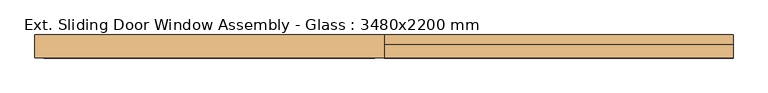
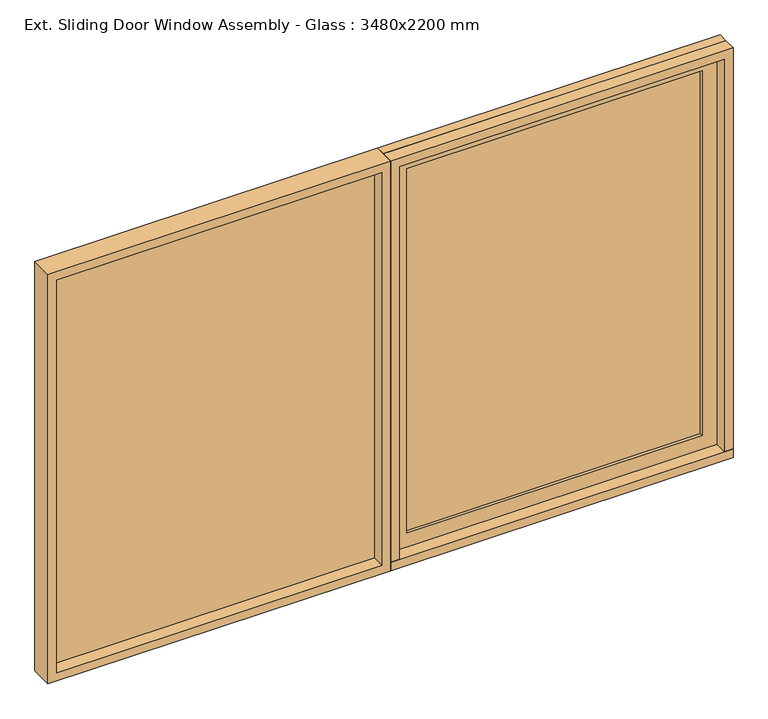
"""IFC4 building model written with IfcOpenShell, lengths in millimetres: door geometry, Ext. Sliding Door Window Assembly - Glass : 3480x2200 mm."""

from ifc_helpers import new_model, si_unit, frame, origin, origin_with_axes, place, context, project, spatial, polyline, outline, extrude, source, transform, mapped, element, save


def ext_sliding_door_window_assembly_glass_3480x2200_mm_6c81b4e4(model_context):
    return source(origin(), model_context, "Body", "SweptSolid", [
        extrude(outline(polyline([(-45.0, -110.0), (-1695.0, -110.0), (-1695.0, -88.0), (-45.0, -88.0), (-45.0, -110.0)])), frame((0.0, 0.0, 45.0), z_axis=(0.0, 0.0, 1.0), x_axis=(1.0, 0.0, 0.0)), (0.0, 0.0, 1.0), 2110.0),
        extrude(outline(polyline([(2200.0, 0.0), (2200.0, -1740.0), (0.0, -1740.0), (0.0, 0.0), (2200.0, 0.0)]), holes=[polyline([(45.0, -45.0), (45.0, -1695.0), (2155.0, -1695.0), (2155.0, -45.0), (45.0, -45.0)])]), frame((0.0, -175.0, 0.0), z_axis=(0.0, 1.0, 0.0), x_axis=(0.0, 0.0, 1.0)), (0.0, 0.0, 1.0), 115.0),
        extrude(outline(polyline([(1740.0, -110.0), (1740.0, -175.0), (0.0, -175.0), (0.0, -110.0), (1740.0, -110.0)])), origin_with_axes(), (0.0, 0.0, 1.0), 45.0),
        extrude(outline(polyline([(1620.0, -93.3333333), (120.0, -93.3333333), (120.0, -76.6666667), (1620.0, -76.6666667), (1620.0, -93.3333333)])), frame((0.0, 0.0, 120.0), z_axis=(0.0, 0.0, 1.0), x_axis=(1.0, 0.0, 0.0)), (0.0, 0.0, 1.0), 1960.0),
        extrude(outline(polyline([(2155.0, 45.0), (2155.0, 1695.0), (45.0, 1695.0), (45.0, 1740.0), (2200.0, 1740.0), (2200.0, 0.0), (45.0, 0.0), (45.0, 45.0), (2155.0, 45.0)])), frame((0.0, -175.0, 0.0), z_axis=(0.0, 1.0, 0.0), x_axis=(0.0, 0.0, 1.0)), (0.0, 0.0, 1.0), 65.0),
        extrude(outline(polyline([(2200.0, 0.0), (0.0, 0.0), (0.0, 1740.0), (2200.0, 1740.0), (2200.0, 0.0)]), holes=[polyline([(2080.0, 120.0), (2080.0, 1620.0), (120.0, 1620.0), (120.0, 120.0), (2080.0, 120.0)])]), frame((0.0, -110.0, 0.0), z_axis=(0.0, 1.0, 0.0), x_axis=(0.0, 0.0, 1.0)), (0.0, 0.0, 1.0), 50.0),
    ])


if __name__ == "__main__":
    model = new_model("IFC4")
    model_context = context("Model", 3, world=origin())
    ifc_project = project(units=[si_unit("LENGTHUNIT", "METRE", prefix="MILLI")], contexts=[model_context])
    site = spatial("IfcSite", under=ifc_project)
    building = spatial("IfcBuilding", under=site)
    placement = place(None, origin())
    ext_sliding_door_window_assembly_glass_3480x2200_mm_shape = ext_sliding_door_window_assembly_glass_3480x2200_mm_6c81b4e4(model_context)
    element("IfcDoor", 1, ObjectType="Ext. Sliding Door Window Assembly - Glass : 3480x2200 mm", at=placement, inside=building, context=model_context, shape_type="MappedRepresentation", body=[
        mapped(ext_sliding_door_window_assembly_glass_3480x2200_mm_shape, transform((0.0, 0.0, 0.0), x_axis=(1.0, 0.0, 0.0), y_axis=(0.0, 1.0, 0.0), z_axis=(0.0, 0.0, 1.0))),
    ])
    save(model, "model.ifc")
